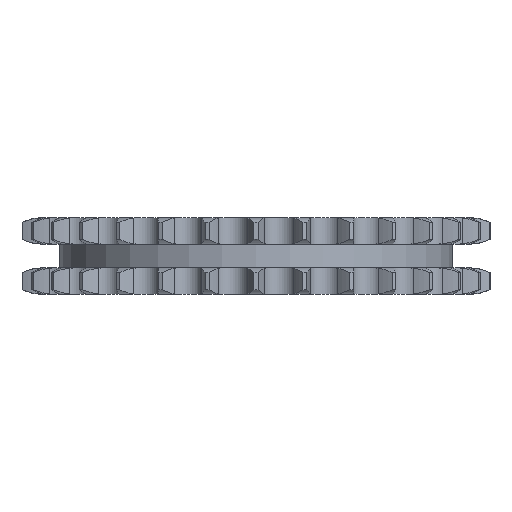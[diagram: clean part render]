
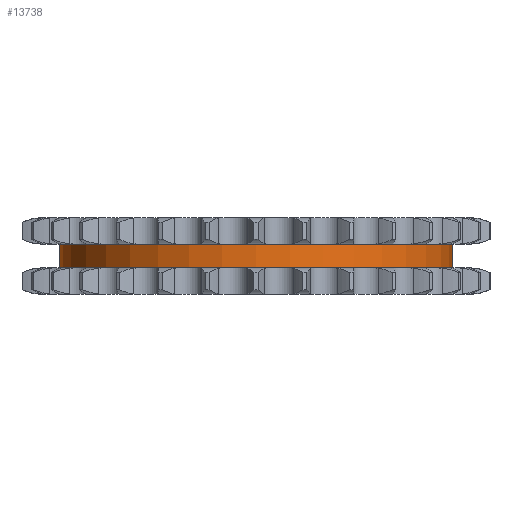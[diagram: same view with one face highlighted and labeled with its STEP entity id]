
A CAD part, left-side view. The second image highlights one B-rep face of the part: STEP entity #13738.
In plain terms, the highlighted cylindrical face has radius 39.562 mm (diameter 79.124 mm), a partial arc.
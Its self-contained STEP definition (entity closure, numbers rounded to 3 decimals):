
#1600=DIRECTION('',(0.,0.,-1.));
#1601=VECTOR('',#1600,4.8);
#1602=CARTESIAN_POINT('',(0.,39.562,2.4));
#1603=LINE('',#1602,#1601);
#1607=CARTESIAN_POINT('',(0.,0.,2.4));
#1608=DIRECTION('',(0.,0.,1.));
#1609=DIRECTION('',(0.,1.,0.));
#1610=AXIS2_PLACEMENT_3D('',#1607,#1608,#1609);
#1615=DIRECTION('',(0.,0.,-1.));
#1616=VECTOR('',#1615,4.8);
#1617=CARTESIAN_POINT('',(0.,-39.562,2.4));
#1618=LINE('',#1617,#1616);
#1622=CARTESIAN_POINT('',(0.,0.,-2.4));
#1623=DIRECTION('',(0.,0.,1.));
#1624=DIRECTION('',(0.,1.,0.));
#1625=AXIS2_PLACEMENT_3D('',#1622,#1623,#1624);
#10754=CARTESIAN_POINT('',(0.,39.562,2.4));
#10755=CARTESIAN_POINT('',(0.,39.562,-2.4));
#10756=VERTEX_POINT('',#10754);
#10757=VERTEX_POINT('',#10755);
#10758=CARTESIAN_POINT('',(0.,-39.562,2.4));
#10759=CARTESIAN_POINT('',(0.,-39.562,-2.4));
#10760=VERTEX_POINT('',#10758);
#10761=VERTEX_POINT('',#10759);
#13726=CARTESIAN_POINT('',(0.,0.,2.64));
#13727=DIRECTION('',(0.,0.,-1.));
#13728=DIRECTION('',(0.,-1.,0.));
#13729=AXIS2_PLACEMENT_3D('',#13726,#13727,#13728);
#13730=CYLINDRICAL_SURFACE('',#13729,39.562);
#13731=ORIENTED_EDGE('',*,*,#13716,.F.);
#13732=ORIENTED_EDGE('',*,*,#13706,.T.);
#13733=ORIENTED_EDGE('',*,*,#13720,.T.);
#13735=ORIENTED_EDGE('',*,*,#13734,.F.);
#13736=EDGE_LOOP('',(#13731,#13732,#13733,#13735));
#13737=FACE_OUTER_BOUND('',#13736,.F.);
#13738=ADVANCED_FACE('',(#13737),#13730,.T.);
#1611=CIRCLE('',#1610,39.562);
#1626=CIRCLE('',#1625,39.562);
#13706=EDGE_CURVE('',#10756,#10760,#1611,.T.);
#13716=EDGE_CURVE('',#10756,#10757,#1603,.T.);
#13720=EDGE_CURVE('',#10760,#10761,#1618,.T.);
#13734=EDGE_CURVE('',#10757,#10761,#1626,.T.);
